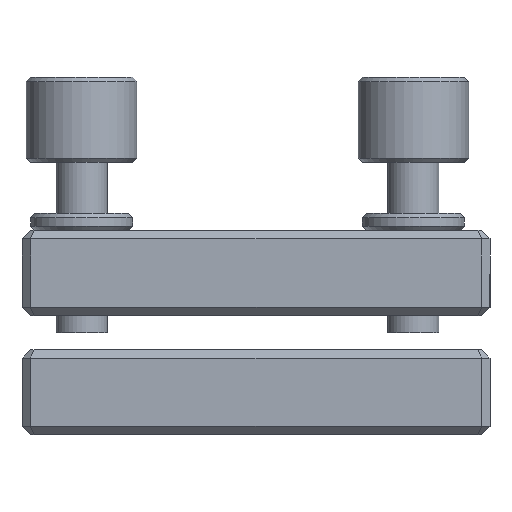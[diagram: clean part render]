
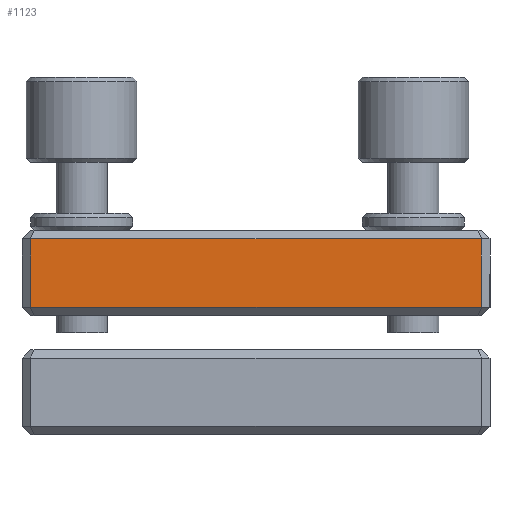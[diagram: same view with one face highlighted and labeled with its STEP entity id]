
A CAD part, front view. The second image highlights one B-rep face of the part: STEP entity #1123.
In plain terms, the highlighted planar face has unit normal (0, 1, 0).
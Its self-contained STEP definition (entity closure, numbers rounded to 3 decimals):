
#18 = EDGE_CURVE ( 'NONE', #2093, #5915, #547, .T. ) ;
#127 = EDGE_CURVE ( 'NONE', #2093, #4342, #2102, .T. ) ;
#209 = CARTESIAN_POINT ( 'NONE',  ( 21.476, -26.109, 53.5 ) ) ;
#425 = DIRECTION ( 'NONE',  ( 0., 1., 0. ) ) ;
#547 = LINE ( 'NONE', #2194, #1307 ) ;
#872 = EDGE_CURVE ( 'NONE', #5915, #4692, #3020, .T. ) ;
#1025 = VECTOR ( 'NONE', #1303, 1000. ) ;
#1029 = ORIENTED_EDGE ( 'NONE', *, *, #872, .T. ) ;
#1123 = ADVANCED_FACE ( 'NONE', ( #4483 ), #2540, .T. ) ;
#1156 = DIRECTION ( 'NONE',  ( 0., 0., 1. ) ) ;
#1174 = CARTESIAN_POINT ( 'NONE',  ( -31.524, -26.109, 61.5 ) ) ;
#1222 = CARTESIAN_POINT ( 'NONE',  ( 21.476, -26.109, 61.5 ) ) ;
#1246 = EDGE_LOOP ( 'NONE', ( #1971, #1029, #6232, #1895 ) ) ;
#1303 = DIRECTION ( 'NONE',  ( 1., 0., 0. ) ) ;
#1307 = VECTOR ( 'NONE', #1156, 1000. ) ;
#1481 = CARTESIAN_POINT ( 'NONE',  ( 21.476, -26.109, 62.5 ) ) ;
#1895 = ORIENTED_EDGE ( 'NONE', *, *, #127, .F. ) ;
#1971 = ORIENTED_EDGE ( 'NONE', *, *, #18, .T. ) ;
#2093 = VERTEX_POINT ( 'NONE', #2894 ) ;
#2102 = LINE ( 'NONE', #4432, #6609 ) ;
#2194 = CARTESIAN_POINT ( 'NONE',  ( -31.524, -26.109, 62.5 ) ) ;
#2540 = PLANE ( 'NONE',  #5619 ) ;
#2894 = CARTESIAN_POINT ( 'NONE',  ( -31.524, -26.109, 53.5 ) ) ;
#3020 = LINE ( 'NONE', #4557, #1025 ) ;
#3641 = CARTESIAN_POINT ( 'NONE',  ( 22.476, -26.109, 62.5 ) ) ;
#4342 = VERTEX_POINT ( 'NONE', #209 ) ;
#4432 = CARTESIAN_POINT ( 'NONE',  ( 22.476, -26.109, 53.5 ) ) ;
#4455 = DIRECTION ( 'NONE',  ( 1., 0., 0. ) ) ;
#4483 = FACE_OUTER_BOUND ( 'NONE', #1246, .T. ) ;
#4555 = VECTOR ( 'NONE', #5810, 1000. ) ;
#4557 = CARTESIAN_POINT ( 'NONE',  ( 22.476, -26.109, 61.5 ) ) ;
#4692 = VERTEX_POINT ( 'NONE', #1222 ) ;
#5229 = EDGE_CURVE ( 'NONE', #4692, #4342, #5982, .T. ) ;
#5309 = DIRECTION ( 'NONE',  ( -1., 0., 0. ) ) ;
#5619 = AXIS2_PLACEMENT_3D ( 'NONE', #3641, #425, #5309 ) ;
#5810 = DIRECTION ( 'NONE',  ( 0., 0., -1. ) ) ;
#5915 = VERTEX_POINT ( 'NONE', #1174 ) ;
#5982 = LINE ( 'NONE', #1481, #4555 ) ;
#6232 = ORIENTED_EDGE ( 'NONE', *, *, #5229, .T. ) ;
#6609 = VECTOR ( 'NONE', #4455, 1000. ) ;
